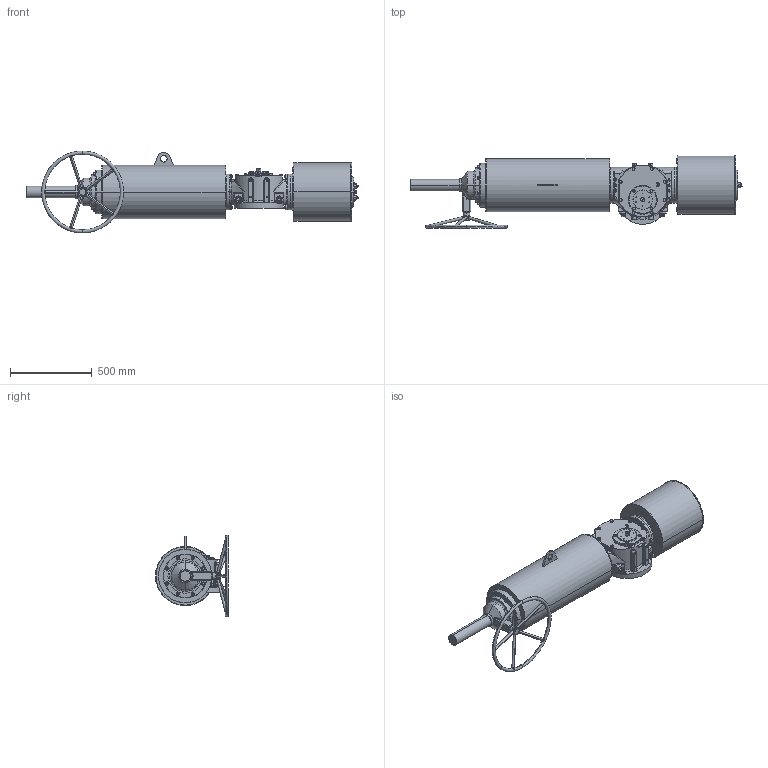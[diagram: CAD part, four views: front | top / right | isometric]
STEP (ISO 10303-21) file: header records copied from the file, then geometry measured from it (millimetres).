
FILE_DESCRIPTION (( 'STEP AP203' ), '1' );
FILE_NAME ('VTS3-350-SR-MG-FO.STEP', '2023-01-01T08:56:18', ( '' ), ( '' ), 'SwSTEP 2.0', 'SolidWorks 2020', '' );
FILE_SCHEMA (( 'CONFIG_CONTROL_DESIGN' ));
Length unit declared in the file: millimetre
Products named in the file (1): VTS3-350-SR-MG-FO
Bounding box: 2026.5 x 445 x 500 mm (x, y, z)
Volume: 124438826.2 mm3; surface area: 3002597 mm2
Topology: 49 solids, 50 shells, 2690 faces, 6733 edges, 4219 vertices
Faces by surface type: plane 1087, cylinder 848, cone 542, bspline 167, torus 46
Entity records: 102210 total; most frequent: CARTESIAN_POINT 39590, ORIENTED_EDGE 13240, DIRECTION 12933, EDGE_CURVE 6620, AXIS2_PLACEMENT_3D 5125, VERTEX_POINT 4219, EDGE_LOOP 2991, FACE_OUTER_BOUND 2690
